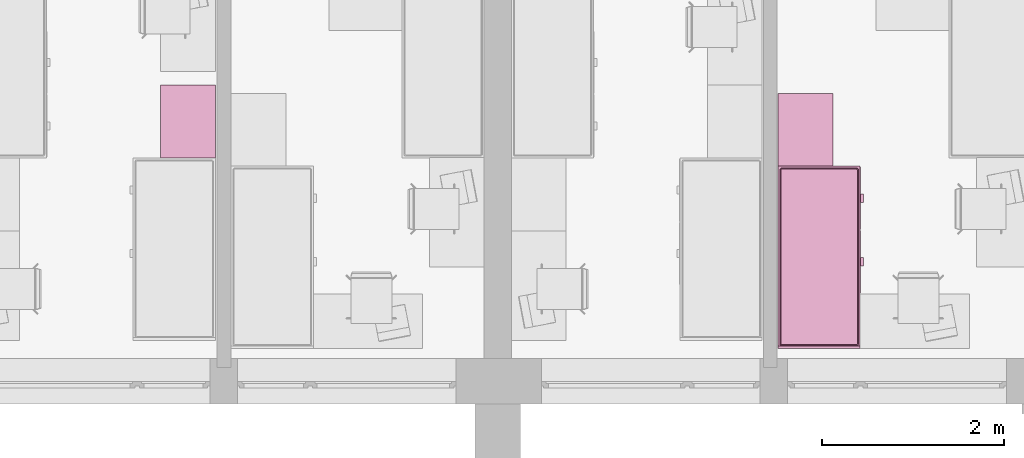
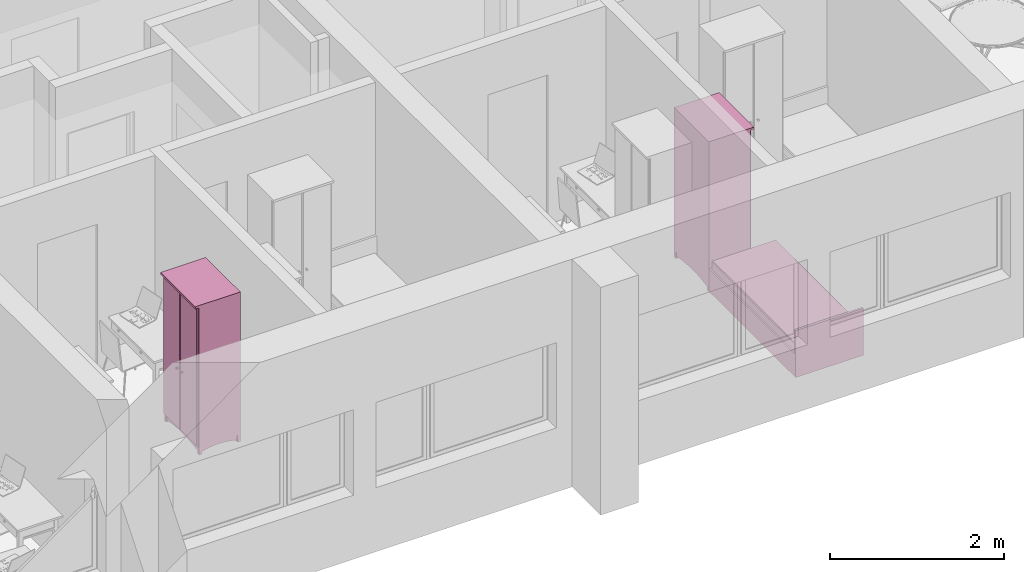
# One storey, part 103 of 165: 3 furnishings.
"""IFC2X3 building model written with IfcOpenShell, lengths in millimetres."""

from ifc_helpers import new_model, entity, si_unit, converted_unit, money_unit, direction, frame, origin_with_axes, place, context, subcontext, project, spatial, faceted_brep, source, transform, mapped, material, material_list, type_object, element, save


model = new_model("IFC2X3")

# Units and contexts
model_context = context("Model", 3, precision=1e-05, world=origin_with_axes(), true_north=direction((0.0, 1.0)))
body_context = subcontext(model_context, "Body", "Model", "MODEL_VIEW")
ifc_project = project(units=[si_unit("LENGTHUNIT", "METRE", prefix="MILLI"), si_unit("AREAUNIT", "SQUARE_METRE"), si_unit("VOLUMEUNIT", "CUBIC_METRE"), converted_unit("PLANEANGLEUNIT", "DEGREE", entity("IfcPlaneAngleMeasure", 0.0174532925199), si_unit("PLANEANGLEUNIT", "RADIAN"), dimensions=[0, 0, 0, 0, 0, 0, 0]), si_unit("SOLIDANGLEUNIT", "STERADIAN"), money_unit("USD"), converted_unit("TIMEUNIT", "Year", entity("IfcTimeMeasure", 31556926.0), si_unit("TIMEUNIT", "SECOND"), dimensions=[0, 0, 0, 0, 0, 0, 0]), si_unit("MASSUNIT", "GRAM"), si_unit("THERMODYNAMICTEMPERATUREUNIT", "DEGREE_CELSIUS"), si_unit("LUMINOUSINTENSITYUNIT", "LUMEN")], contexts=[model_context])

# Site, building, storey
site_placement = place(None, origin_with_axes())
site = spatial("IfcSite", under=ifc_project, at=site_placement, Name="Site", CompositionType="ELEMENT")
building_placement = place(site_placement, origin_with_axes())
building = spatial("IfcBuilding", under=site, at=building_placement, Name="Building", CompositionType="ELEMENT")
storey_placement = place(building_placement, frame((0.0, 0.0, 6300.0), z_axis=(0.0, 0.0, 1.0), x_axis=(1.0, 0.0, 0.0)))
storey = spatial("IfcBuildingStorey", under=building, at=storey_placement, Name="4KORRUS", CompositionType="ELEMENT", Elevation=6300.0)

# Furnishings
ifc_material = material(Name="Background")
ifc_material_list = material_list([ifc_material])
furnishing_element_type_1 = type_object("IfcFurnishingElementType", Name="Cupboard 19")
shared_shape_1 = source(origin_with_axes(), body_context, "Body", "Brep", [
    faceted_brep([(780.0, 600.0, 120.0), (780.0, 600.0, 2050.0), (780.0, 580.0, 2050.0), (780.0, 580.0, 120.0), (20.0, 600.0, 120.0), (20.0, 600.0, 2050.0), (20.0, 580.0, 2050.0), (20.0, 580.0, 120.0)], [[[0, 1, 2, 3]], [[4, 5, 1, 0]], [[1, 5, 6, 2]], [[3, 2, 6, 7]], [[0, 3, 7, 4]], [[7, 6, 5, 4]]]),
    faceted_brep([(0.0, 50.0, 100.0), (0.0, 600.0, 100.0), (20.0, 600.0, 100.0), (20.0, 50.0, 100.0), (0.0, 50.0, 2070.0), (0.0, 600.0, 2070.0), (20.0, 600.0, 2070.0), (20.0, 50.0, 2070.0)], [[[0, 1, 2, 3]], [[0, 4, 5, 1]], [[1, 5, 6, 2]], [[2, 6, 7, 3]], [[3, 7, 4, 0]], [[7, 6, 5, 4]]]),
    faceted_brep([(780.0, 50.0, 100.0), (780.0, 600.0, 100.0), (800.0, 600.0, 100.0), (800.0, 50.0, 100.0), (780.0, 50.0, 2070.0), (780.0, 600.0, 2070.0), (800.0, 600.0, 2070.0), (800.0, 50.0, 2070.0)], [[[0, 1, 2, 3]], [[0, 4, 5, 1]], [[1, 5, 6, 2]], [[2, 6, 7, 3]], [[3, 7, 4, 0]], [[7, 6, 5, 4]]]),
    faceted_brep([(20.0, 50.0, 100.0), (20.0, 600.0, 100.0), (780.0, 600.0, 100.0), (780.0, 50.0, 100.0), (20.0, 50.0, 120.0), (20.0, 600.0, 120.0), (780.0, 600.0, 120.0), (780.0, 50.0, 120.0)], [[[0, 1, 2, 3]], [[0, 4, 5, 1]], [[1, 5, 6, 2]], [[2, 6, 7, 3]], [[3, 7, 4, 0]], [[7, 6, 5, 4]]]),
    faceted_brep([(20.0, 50.0, 2050.0), (20.0, 600.0, 2050.0), (780.0, 600.0, 2050.0), (780.0, 50.0, 2050.0), (20.0, 50.0, 2070.0), (20.0, 600.0, 2070.0), (780.0, 600.0, 2070.0), (780.0, 50.0, 2070.0)], [[[0, 1, 2, 3]], [[0, 4, 5, 1]], [[1, 5, 6, 2]], [[2, 6, 7, 3]], [[3, 7, 4, 0]], [[7, 6, 5, 4]]]),
    faceted_brep([(0.0, 600.0, 2070.0), (0.0, 0.0, 2070.0), (0.0, 0.0, 2100.0), (0.0, 600.0, 2100.0), (800.0, 600.0, 2070.0), (800.0, 0.0, 2070.0), (800.0, 0.0, 2100.0), (800.0, 600.0, 2100.0)], [[[0, 1, 2, 3]], [[0, 4, 5, 1]], [[1, 5, 6, 2]], [[3, 2, 6, 7]], [[4, 0, 3, 7]], [[5, 4, 7, 6]]]),
    faceted_brep([(760.0, 590.0, 25.0), (760.0, 570.0, 25.0), (640.962, 570.0, 45.8), (640.962, 590.0, 45.8), (760.0, 590.0, 100.0), (760.0, 570.0, 100.0), (40.0, 570.0, 100.0), (40.0, 570.0, 25.0), (159.038, 570.0, 45.8), (279.23, 570.0, 58.32), (400.0, 570.0, 62.5), (520.77, 570.0, 58.32), (520.77, 590.0, 58.32), (400.0, 590.0, 62.5), (279.23, 590.0, 58.32), (159.038, 590.0, 45.8), (40.0, 590.0, 25.0), (40.0, 590.0, 100.0)], [[[0, 1, 2, 3]], [[4, 5, 1, 0]], [[1, 5, 6, 7, 8, 9, 10, 11, 2]], [[3, 2, 11, 12]], [[0, 3, 12, 13, 14, 15, 16, 17, 4]], [[17, 6, 5, 4]], [[16, 7, 6, 17]], [[15, 8, 7, 16]], [[14, 9, 8, 15]], [[13, 10, 9, 14]], [[12, 11, 10, 13]]]),
    faceted_brep([(760.0, 80.0, 25.0), (760.0, 60.0, 25.0), (640.962, 60.0, 45.8), (640.962, 80.0, 45.8), (760.0, 80.0, 100.0), (760.0, 60.0, 100.0), (40.0, 60.0, 100.0), (40.0, 60.0, 25.0), (159.038, 60.0, 45.8), (279.23, 60.0, 58.32), (400.0, 60.0, 62.5), (520.77, 60.0, 58.32), (520.77, 80.0, 58.32), (400.0, 80.0, 62.5), (279.23, 80.0, 58.32), (159.038, 80.0, 45.8), (40.0, 80.0, 25.0), (40.0, 80.0, 100.0)], [[[0, 1, 2, 3]], [[4, 5, 1, 0]], [[1, 5, 6, 7, 8, 9, 10, 11, 2]], [[3, 2, 11, 12]], [[0, 3, 12, 13, 14, 15, 16, 17, 4]], [[17, 6, 5, 4]], [[16, 7, 6, 17]], [[15, 8, 7, 16]], [[14, 9, 8, 15]], [[13, 10, 9, 14]], [[12, 11, 10, 13]]]),
    faceted_brep([(790.0, 90.0, 25.0), (770.0, 90.0, 25.0), (770.0, 141.266, 38.072), (790.0, 141.266, 38.072), (790.0, 90.0, 100.0), (770.0, 90.0, 100.0), (770.0, 560.0, 100.0), (770.0, 560.0, 25.0), (770.0, 508.734, 38.072), (770.0, 456.752, 47.92), (770.0, 404.257, 54.508), (770.0, 351.453, 57.808), (770.0, 298.547, 57.808), (770.0, 245.743, 54.508), (770.0, 193.248, 47.92), (790.0, 193.248, 47.92), (790.0, 245.743, 54.508), (790.0, 298.547, 57.808), (790.0, 351.453, 57.808), (790.0, 404.257, 54.508), (790.0, 456.752, 47.92), (790.0, 508.734, 38.072), (790.0, 560.0, 25.0), (790.0, 560.0, 100.0)], [[[0, 1, 2, 3]], [[4, 5, 1, 0]], [[1, 5, 6, 7, 8, 9, 10, 11, 12, 13, 14, 2]], [[3, 2, 14, 15]], [[0, 3, 15, 16, 17, 18, 19, 20, 21, 22, 23, 4]], [[23, 6, 5, 4]], [[22, 7, 6, 23]], [[21, 8, 7, 22]], [[20, 9, 8, 21]], [[19, 10, 9, 20]], [[18, 11, 10, 19]], [[17, 12, 11, 18]], [[16, 13, 12, 17]], [[15, 14, 13, 16]]]),
    faceted_brep([(30.0, 90.0, 25.0), (10.0, 90.0, 25.0), (10.0, 141.266, 38.072), (30.0, 141.266, 38.072), (30.0, 90.0, 100.0), (10.0, 90.0, 100.0), (10.0, 560.0, 100.0), (10.0, 560.0, 25.0), (10.0, 508.734, 38.072), (10.0, 456.752, 47.92), (10.0, 404.257, 54.508), (10.0, 351.453, 57.808), (10.0, 298.547, 57.808), (10.0, 245.743, 54.508), (10.0, 193.248, 47.92), (30.0, 193.248, 47.92), (30.0, 245.743, 54.508), (30.0, 298.547, 57.808), (30.0, 351.453, 57.808), (30.0, 404.257, 54.508), (30.0, 456.752, 47.92), (30.0, 508.734, 38.072), (30.0, 560.0, 25.0), (30.0, 560.0, 100.0)], [[[0, 1, 2, 3]], [[4, 5, 1, 0]], [[1, 5, 6, 7, 8, 9, 10, 11, 12, 13, 14, 2]], [[3, 2, 14, 15]], [[0, 3, 15, 16, 17, 18, 19, 20, 21, 22, 23, 4]], [[23, 6, 5, 4]], [[22, 7, 6, 23]], [[21, 8, 7, 22]], [[20, 9, 8, 21]], [[19, 10, 9, 20]], [[18, 11, 10, 19]], [[17, 12, 11, 18]], [[16, 13, 12, 17]], [[15, 14, 13, 16]]]),
    faceted_brep([(760.0, 560.0, 0.0), (760.0, 560.0, 100.0), (760.0, 600.0, 100.0), (760.0, 600.0, 0.0), (800.0, 560.0, 0.0), (800.0, 560.0, 100.0), (800.0, 600.0, 100.0), (800.0, 600.0, 0.0)], [[[0, 1, 2, 3]], [[4, 5, 1, 0]], [[1, 5, 6, 2]], [[3, 2, 6, 7]], [[0, 3, 7, 4]], [[7, 6, 5, 4]]]),
    faceted_brep([(0.0, 560.0, 0.0), (0.0, 560.0, 100.0), (0.0, 600.0, 100.0), (0.0, 600.0, 0.0), (40.0, 560.0, 0.0), (40.0, 560.0, 100.0), (40.0, 600.0, 100.0), (40.0, 600.0, 0.0)], [[[0, 1, 2, 3]], [[4, 5, 1, 0]], [[1, 5, 6, 2]], [[3, 2, 6, 7]], [[0, 3, 7, 4]], [[7, 6, 5, 4]]]),
    faceted_brep([(760.0, 50.0, 0.0), (760.0, 50.0, 100.0), (760.0, 90.0, 100.0), (760.0, 90.0, 0.0), (800.0, 50.0, 0.0), (800.0, 50.0, 100.0), (800.0, 90.0, 100.0), (800.0, 90.0, 0.0)], [[[0, 1, 2, 3]], [[4, 5, 1, 0]], [[1, 5, 6, 2]], [[3, 2, 6, 7]], [[0, 3, 7, 4]], [[7, 6, 5, 4]]]),
    faceted_brep([(0.0, 50.0, 0.0), (0.0, 50.0, 100.0), (0.0, 90.0, 100.0), (0.0, 90.0, 0.0), (40.0, 50.0, 0.0), (40.0, 50.0, 100.0), (40.0, 90.0, 100.0), (40.0, 90.0, 0.0)], [[[0, 1, 2, 3]], [[4, 5, 1, 0]], [[1, 5, 6, 2]], [[3, 2, 6, 7]], [[0, 3, 7, 4]], [[7, 6, 5, 4]]]),
    faceted_brep([(780.0, 580.0, 587.5), (780.0, 580.0, 607.5), (780.0, 50.0, 607.5), (780.0, 50.0, 587.5), (20.0, 580.0, 587.5), (20.0, 580.0, 607.5), (20.0, 50.0, 607.5), (20.0, 50.0, 587.5)], [[[0, 1, 2, 3]], [[4, 5, 1, 0]], [[1, 5, 6, 2]], [[3, 2, 6, 7]], [[0, 3, 7, 4]], [[7, 6, 5, 4]]]),
    faceted_brep([(780.0, 580.0, 1075.0), (780.0, 580.0, 1095.0), (780.0, 50.0, 1095.0), (780.0, 50.0, 1075.0), (20.0, 580.0, 1075.0), (20.0, 580.0, 1095.0), (20.0, 50.0, 1095.0), (20.0, 50.0, 1075.0)], [[[0, 1, 2, 3]], [[4, 5, 1, 0]], [[1, 5, 6, 2]], [[3, 2, 6, 7]], [[0, 3, 7, 4]], [[7, 6, 5, 4]]]),
    faceted_brep([(780.0, 580.0, 1562.5), (780.0, 580.0, 1582.5), (780.0, 50.0, 1582.5), (780.0, 50.0, 1562.5), (20.0, 580.0, 1562.5), (20.0, 580.0, 1582.5), (20.0, 50.0, 1582.5), (20.0, 50.0, 1562.5)], [[[0, 1, 2, 3]], [[4, 5, 1, 0]], [[1, 5, 6, 2]], [[3, 2, 6, 7]], [[0, 3, 7, 4]], [[7, 6, 5, 4]]]),
    faceted_brep([(789.5, 50.0, 110.5), (400.5, 50.0, 110.5), (400.5, 50.0, 2059.5), (789.5, 50.0, 2059.5), (789.5, 40.0, 110.5), (400.5, 40.0, 110.5), (400.5, 40.0, 2059.5), (789.5, 40.0, 2059.5), (779.5, 30.0, 120.5), (410.5, 30.0, 120.5), (410.5, 30.0, 2049.5), (779.5, 30.0, 2049.5)], [[[0, 1, 2, 3]], [[0, 4, 5, 1]], [[1, 5, 6, 2]], [[2, 6, 7, 3]], [[3, 7, 4, 0]], [[4, 8, 9, 5]], [[5, 9, 10, 6]], [[6, 10, 11, 7]], [[7, 11, 8, 4]], [[10, 9, 8, 11]]]),
    faceted_brep([(399.5, 50.0, 110.5), (10.5, 50.0, 110.5), (10.5, 50.0, 2059.5), (399.5, 50.0, 2059.5), (399.5, 40.0, 110.5), (10.5, 40.0, 110.5), (10.5, 40.0, 2059.5), (399.5, 40.0, 2059.5), (389.5, 30.0, 120.5), (20.5, 30.0, 120.5), (20.5, 30.0, 2049.5), (389.5, 30.0, 2049.5)], [[[0, 1, 2, 3]], [[0, 4, 5, 1]], [[1, 5, 6, 2]], [[2, 6, 7, 3]], [[3, 7, 4, 0]], [[4, 8, 9, 5]], [[5, 9, 10, 6]], [[6, 10, 11, 7]], [[7, 11, 8, 4]], [[10, 9, 8, 11]]]),
    faceted_brep([(339.608, 30.0, 954.0), (338.0, 30.0, 960.0), (339.608, 30.0, 966.0), (344.0, 30.0, 970.392), (350.0, 30.0, 972.0), (356.0, 30.0, 970.392), (360.392, 30.0, 966.0), (362.0, 30.0, 960.0), (360.392, 30.0, 954.0), (356.0, 30.0, 949.608), (350.0, 30.0, 948.0), (344.0, 30.0, 949.608), (339.608, 5.0, 954.0), (338.0, 5.0, 960.0), (339.608, 5.0, 966.0), (344.0, 5.0, 970.392), (350.0, 5.0, 972.0), (356.0, 5.0, 970.392), (360.392, 5.0, 966.0), (362.0, 5.0, 960.0), (360.392, 5.0, 954.0), (356.0, 5.0, 949.608), (350.0, 5.0, 948.0), (344.0, 5.0, 949.608)], [[[0, 1, 2, 3, 4, 5, 6, 7, 8, 9, 10, 11]], [[0, 12, 13, 1]], [[1, 13, 14, 2]], [[2, 14, 15, 3]], [[3, 15, 16, 4]], [[4, 16, 17, 5]], [[5, 17, 18, 6]], [[6, 18, 19, 7]], [[7, 19, 20, 8]], [[8, 20, 21, 9]], [[9, 21, 22, 10]], [[10, 22, 23, 11]], [[11, 23, 12, 0]], [[12, 23, 22, 21, 20, 19, 18, 17, 16, 15, 14, 13]]]),
    faceted_brep([(460.392, 30.0, 954.0), (456.0, 30.0, 949.608), (450.0, 30.0, 948.0), (444.0, 30.0, 949.608), (439.608, 30.0, 954.0), (438.0, 30.0, 960.0), (439.608, 30.0, 966.0), (444.0, 30.0, 970.392), (450.0, 30.0, 972.0), (456.0, 30.0, 970.392), (460.392, 30.0, 966.0), (462.0, 30.0, 960.0), (460.392, 5.0, 954.0), (456.0, 5.0, 949.608), (450.0, 5.0, 948.0), (444.0, 5.0, 949.608), (439.608, 5.0, 954.0), (438.0, 5.0, 960.0), (439.608, 5.0, 966.0), (444.0, 5.0, 970.392), (450.0, 5.0, 972.0), (456.0, 5.0, 970.392), (460.392, 5.0, 966.0), (462.0, 5.0, 960.0)], [[[0, 1, 2, 3, 4, 5, 6, 7, 8, 9, 10, 11]], [[1, 0, 12, 13]], [[2, 1, 13, 14]], [[3, 2, 14, 15]], [[4, 3, 15, 16]], [[5, 4, 16, 17]], [[6, 5, 17, 18]], [[7, 6, 18, 19]], [[8, 7, 19, 20]], [[9, 8, 20, 21]], [[10, 9, 21, 22]], [[11, 10, 22, 23]], [[0, 11, 23, 12]], [[12, 23, 22, 21, 20, 19, 18, 17, 16, 15, 14, 13]]]),
])
for number, where, z_axis, x_axis, name in (
    (1, (-14465.2967033, -17529.2398994, 0.0), (0.0, 0.0, 1.0), (0.0, 1.0, 0.0), "FU - 014"),
    (2, (-21840.2967033, -16639.2398994, 0.0), (0.0, 0.0, 1.0), (0.0, -1.0, 0.0), "FU - 014"),
):
    element("IfcFurnishingElement", number, at=place(storey_placement, frame(where, z_axis=z_axis, x_axis=x_axis)), inside=storey, type_object=furnishing_element_type_1, material=ifc_material_list, Name=name, context=body_context, shape_type="MappedRepresentation", body=[
        mapped(shared_shape_1, transform((0.0, 0.0, 0.0))),
    ])
furnishing_element_type_2 = type_object("IfcFurnishingElementType", Name="Bed 19")
shared_shape_2 = source(origin_with_axes(), body_context, "Body", "Brep", [
    faceted_brep([(-900.0, 1970.0, 0.0), (-900.0, 2000.0, 0.0), (0.0, 2000.0, 0.0), (0.0, 1970.0, 0.0), (-900.0, 1970.0, 660.0), (-900.0, 2000.0, 660.0), (0.0, 2000.0, 660.0), (0.0, 1970.0, 660.0)], [[[0, 1, 2, 3]], [[0, 4, 5, 1]], [[1, 5, 6, 2]], [[2, 6, 7, 3]], [[3, 7, 4, 0]], [[7, 6, 5, 4]]]),
    faceted_brep([(-900.0, 0.0, 0.0), (-900.0, 1970.0, 0.0), (0.0, 1970.0, 0.0), (0.0, 0.0, 0.0), (-900.0, 0.0, 320.0), (-900.0, 1970.0, 320.0), (0.0, 1970.0, 320.0), (0.0, 0.0, 320.0)], [[[0, 1, 2, 3]], [[0, 4, 5, 1]], [[1, 5, 6, 2]], [[2, 6, 7, 3]], [[3, 7, 4, 0]], [[7, 6, 5, 4]]]),
    faceted_brep([(-905.0, 10.0, 30.0), (-905.0, 695.0, 30.0), (-900.0, 695.0, 30.0), (-900.0, 10.0, 30.0), (-905.0, 10.0, 290.0), (-905.0, 695.0, 290.0), (-900.0, 695.0, 290.0), (-900.0, 10.0, 290.0)], [[[0, 1, 2, 3]], [[0, 4, 5, 1]], [[1, 5, 6, 2]], [[2, 6, 7, 3]], [[3, 7, 4, 0]], [[7, 6, 5, 4]]]),
    faceted_brep([(-935.0, 307.5, 150.0), (-935.0, 397.5, 150.0), (-905.0, 397.5, 150.0), (-905.0, 307.5, 150.0), (-935.0, 307.5, 170.0), (-935.0, 397.5, 170.0), (-905.0, 397.5, 170.0), (-905.0, 307.5, 170.0)], [[[0, 1, 2, 3]], [[0, 4, 5, 1]], [[1, 5, 6, 2]], [[2, 6, 7, 3]], [[3, 7, 4, 0]], [[7, 6, 5, 4]]]),
    faceted_brep([(-905.0, 705.0, 30.0), (-905.0, 1390.0, 30.0), (-900.0, 1390.0, 30.0), (-900.0, 705.0, 30.0), (-905.0, 705.0, 290.0), (-905.0, 1390.0, 290.0), (-900.0, 1390.0, 290.0), (-900.0, 705.0, 290.0)], [[[0, 1, 2, 3]], [[0, 4, 5, 1]], [[1, 5, 6, 2]], [[2, 6, 7, 3]], [[3, 7, 4, 0]], [[7, 6, 5, 4]]]),
    faceted_brep([(-935.0, 1002.5, 150.0), (-935.0, 1092.5, 150.0), (-905.0, 1092.5, 150.0), (-905.0, 1002.5, 150.0), (-935.0, 1002.5, 170.0), (-935.0, 1092.5, 170.0), (-905.0, 1092.5, 170.0), (-905.0, 1002.5, 170.0)], [[[0, 1, 2, 3]], [[0, 4, 5, 1]], [[1, 5, 6, 2]], [[2, 6, 7, 3]], [[3, 7, 4, 0]], [[7, 6, 5, 4]]]),
    faceted_brep([(-20.0, 40.0, 350.0), (-21.522, 32.346, 350.0), (-25.858, 25.858, 350.0), (-32.346, 21.522, 350.0), (-40.0, 20.0, 350.0), (-860.0, 20.0, 350.0), (-867.654, 21.522, 350.0), (-874.142, 25.858, 350.0), (-878.478, 32.346, 350.0), (-880.0, 40.0, 350.0), (-880.0, 1950.0, 350.0), (-878.478, 1957.654, 350.0), (-874.142, 1964.142, 350.0), (-867.654, 1968.478, 350.0), (-860.0, 1970.0, 350.0), (-40.0, 1970.0, 350.0), (-32.346, 1968.478, 350.0), (-25.858, 1964.142, 350.0), (-21.522, 1957.654, 350.0), (-20.0, 1950.0, 350.0), (-20.0, 40.0, 420.0), (-21.522, 32.346, 420.0), (-25.858, 25.858, 420.0), (-32.346, 21.522, 420.0), (-40.0, 20.0, 420.0), (-860.0, 20.0, 420.0), (-867.654, 21.522, 420.0), (-874.142, 25.858, 420.0), (-878.478, 32.346, 420.0), (-880.0, 40.0, 420.0), (-880.0, 1950.0, 420.0), (-878.478, 1957.654, 420.0), (-874.142, 1964.142, 420.0), (-867.654, 1968.478, 420.0), (-860.0, 1970.0, 420.0), (-40.0, 1970.0, 420.0), (-32.346, 1968.478, 420.0), (-25.858, 1964.142, 420.0), (-21.522, 1957.654, 420.0), (-20.0, 1950.0, 420.0), (-21.522, 40.15, 427.654), (-22.956, 32.94, 427.654), (-26.955, 26.955, 427.654), (-32.94, 22.956, 427.654), (-40.15, 21.522, 427.654), (-859.85, 21.522, 427.654), (-867.06, 22.956, 427.654), (-873.045, 26.955, 427.654), (-877.044, 32.94, 427.654), (-878.478, 40.15, 427.654), (-878.478, 1949.85, 427.654), (-877.044, 1957.06, 427.654), (-873.045, 1963.045, 427.654), (-867.06, 1967.044, 427.654), (-859.85, 1968.478, 427.654), (-40.15, 1968.478, 427.654), (-32.94, 1967.044, 427.654), (-26.955, 1963.045, 427.654), (-22.956, 1957.06, 427.654), (-21.522, 1949.85, 427.654), (-32.346, 41.216, 438.478), (-33.152, 37.164, 438.478), (-34.759, 34.759, 438.478), (-37.164, 33.152, 438.478), (-41.216, 32.346, 438.478), (-858.784, 32.346, 438.478), (-862.836, 33.152, 438.478), (-865.241, 34.759, 438.478), (-866.848, 37.164, 438.478), (-867.654, 41.216, 438.478), (-867.654, 1948.784, 438.478), (-866.848, 1952.836, 438.478), (-865.241, 1955.241, 438.478), (-862.836, 1956.848, 438.478), (-858.784, 1957.654, 438.478), (-41.216, 1957.654, 438.478), (-37.164, 1956.848, 438.478), (-34.759, 1955.241, 438.478), (-33.152, 1952.836, 438.478), (-32.346, 1948.784, 438.478), (-40.0, 41.97, 440.0), (-40.327, 40.327, 440.0), (-40.0, 40.0, 439.924), (-41.97, 40.0, 440.0), (-858.03, 40.0, 440.0), (-859.673, 40.327, 440.0), (-860.0, 40.0, 439.924), (-860.0, 41.97, 440.0), (-860.0, 1948.03, 440.0), (-859.673, 1949.673, 440.0), (-860.0, 1950.0, 439.924), (-858.03, 1950.0, 440.0), (-41.97, 1950.0, 440.0), (-40.327, 1949.673, 440.0), (-40.0, 1950.0, 439.924), (-40.0, 1948.03, 440.0)], [[[0, 1, 2, 3, 4, 5, 6, 7, 8, 9, 10, 11, 12, 13, 14, 15, 16, 17, 18, 19]], [[0, 20, 21, 1]], [[1, 21, 22, 2]], [[2, 22, 23, 3]], [[3, 23, 24, 4]], [[4, 24, 25, 5]], [[5, 25, 26, 6]], [[6, 26, 27, 7]], [[7, 27, 28, 8]], [[8, 28, 29, 9]], [[9, 29, 30, 10]], [[10, 30, 31, 11]], [[11, 31, 32, 12]], [[12, 32, 33, 13]], [[13, 33, 34, 14]], [[14, 34, 35, 15]], [[15, 35, 36, 16]], [[16, 36, 37, 17]], [[17, 37, 38, 18]], [[18, 38, 39, 19]], [[19, 39, 20, 0]], [[20, 40, 41, 21]], [[21, 41, 42, 22]], [[22, 42, 43, 23]], [[23, 43, 44, 24]], [[24, 44, 45, 25]], [[25, 45, 46, 26]], [[26, 46, 47, 27]], [[27, 47, 48, 28]], [[28, 48, 49, 29]], [[29, 49, 50, 30]], [[30, 50, 51, 31]], [[31, 51, 52, 32]], [[32, 52, 53, 33]], [[33, 53, 54, 34]], [[34, 54, 55, 35]], [[35, 55, 56, 36]], [[36, 56, 57, 37]], [[37, 57, 58, 38]], [[38, 58, 59, 39]], [[39, 59, 40, 20]], [[40, 60, 61, 41]], [[41, 61, 62, 42]], [[42, 62, 63, 43]], [[43, 63, 64, 44]], [[44, 64, 65, 45]], [[45, 65, 66, 46]], [[46, 66, 67, 47]], [[47, 67, 68, 48]], [[48, 68, 69, 49]], [[49, 69, 70, 50]], [[50, 70, 71, 51]], [[51, 71, 72, 52]], [[52, 72, 73, 53]], [[53, 73, 74, 54]], [[54, 74, 75, 55]], [[55, 75, 76, 56]], [[56, 76, 77, 57]], [[57, 77, 78, 58]], [[58, 78, 79, 59]], [[59, 79, 60, 40]], [[60, 80, 81, 82, 61]], [[61, 82, 62]], [[62, 82, 63]], [[63, 82, 81, 83, 64]], [[64, 83, 84, 65]], [[65, 84, 85, 86, 66]], [[66, 86, 67]], [[67, 86, 68]], [[68, 86, 85, 87, 69]], [[69, 87, 88, 70]], [[70, 88, 89, 90, 71]], [[71, 90, 72]], [[72, 90, 73]], [[73, 90, 89, 91, 74]], [[74, 91, 92, 75]], [[75, 92, 93, 94, 76]], [[76, 94, 77]], [[77, 94, 78]], [[78, 94, 93, 95, 79]], [[79, 95, 80, 60]], [[95, 93, 92, 91, 89, 88, 87, 85, 84, 83, 81, 80]]]),
    faceted_brep([(-20.0, 40.0, 350.0), (-20.0, 1950.0, 350.0), (-21.522, 1957.654, 350.0), (-25.858, 1964.142, 350.0), (-32.346, 1968.478, 350.0), (-40.0, 1970.0, 350.0), (-860.0, 1970.0, 350.0), (-867.654, 1968.478, 350.0), (-874.142, 1964.142, 350.0), (-878.478, 1957.654, 350.0), (-880.0, 1950.0, 350.0), (-880.0, 40.0, 350.0), (-878.478, 32.346, 350.0), (-874.142, 25.858, 350.0), (-867.654, 21.522, 350.0), (-860.0, 20.0, 350.0), (-40.0, 20.0, 350.0), (-32.346, 21.522, 350.0), (-25.858, 25.858, 350.0), (-21.522, 32.346, 350.0), (-20.0, 40.0, 320.0), (-20.0, 1950.0, 320.0), (-21.522, 1957.654, 320.0), (-25.858, 1964.142, 320.0), (-32.346, 1968.478, 320.0), (-40.0, 1970.0, 320.0), (-860.0, 1970.0, 320.0), (-867.654, 1968.478, 320.0), (-874.142, 1964.142, 320.0), (-878.478, 1957.654, 320.0), (-880.0, 1950.0, 320.0), (-880.0, 40.0, 320.0), (-878.478, 32.346, 320.0), (-874.142, 25.858, 320.0), (-867.654, 21.522, 320.0), (-860.0, 20.0, 320.0), (-40.0, 20.0, 320.0), (-32.346, 21.522, 320.0), (-25.858, 25.858, 320.0), (-21.522, 32.346, 320.0)], [[[0, 1, 2, 3, 4, 5, 6, 7, 8, 9, 10, 11, 12, 13, 14, 15, 16, 17, 18, 19]], [[1, 0, 20, 21]], [[2, 1, 21, 22]], [[3, 2, 22, 23]], [[4, 3, 23, 24]], [[5, 4, 24, 25]], [[6, 5, 25, 26]], [[7, 6, 26, 27]], [[8, 7, 27, 28]], [[9, 8, 28, 29]], [[10, 9, 29, 30]], [[11, 10, 30, 31]], [[12, 11, 31, 32]], [[13, 12, 32, 33]], [[14, 13, 33, 34]], [[15, 14, 34, 35]], [[16, 15, 35, 36]], [[17, 16, 36, 37]], [[18, 17, 37, 38]], [[19, 18, 38, 39]], [[0, 19, 39, 20]], [[20, 39, 38, 37, 36, 35, 34, 33, 32, 31, 30, 29, 28, 27, 26, 25, 24, 23, 22, 21]]]),
])
furnishing_placement = place(storey_placement, frame((-15065.2967033, -17529.2398994, 0.0), z_axis=(0.0, 0.0, 1.0), x_axis=(-1.0, 0.0, 0.0)))
element("IfcFurnishingElement", 3, at=furnishing_placement, inside=storey, type_object=furnishing_element_type_2, material=ifc_material_list, Name="FU - 013", context=body_context, shape_type="MappedRepresentation", body=[
    mapped(shared_shape_2, transform((0.0, 0.0, 0.0))),
])

save(model, "model.ifc")
